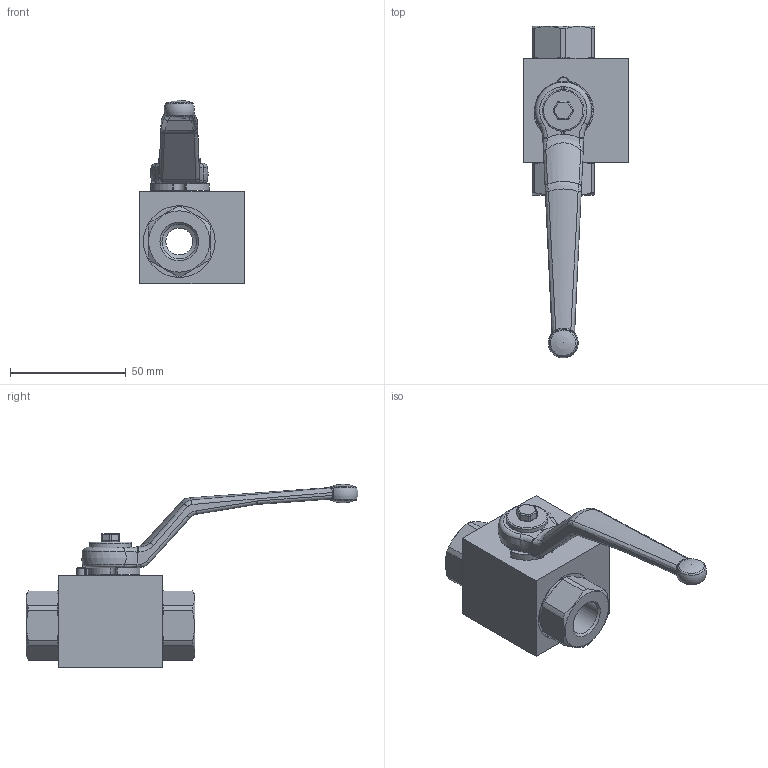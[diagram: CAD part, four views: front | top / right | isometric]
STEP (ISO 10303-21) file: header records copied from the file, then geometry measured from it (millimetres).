
FILE_DESCRIPTION( ( 'Unknown' ), '1' );
FILE_NAME( 'H:/PISTER/3D-MODELLE/BK3-Edelstahl stp/BK3-Edelst DN10 G3_8.stp', 'Unknown', ( 'Unknown' ), ( 'Unknown' ), 'PSStep 14.0', 'Unknown', ' ' );
FILE_SCHEMA( ( 'AUTOMOTIVE_DESIGN { 1 0 10303 214 1 1 1 1 }' ) );
Length unit declared in the file: millimetre
Products named in the file (10): Assem1; 09-09-003; 58-28740-16-oa2; 58-0440-009; 58-0933-235; 03-010-003-oa4; 04-010-048-oa5; 56-032-101-oa10; Griff_SW9; 01-010-117-oa11
Assembly tree (9 placements, depth 2):
  Assem1
    09-09-003
    58-28740-16-oa2
    58-0440-009
    58-0933-235
    03-010-003-oa4
    04-010-048-oa5
    56-032-101-oa10
    Griff_SW9
    01-010-117-oa11
Bounding box: 45 x 143.5 x 79.3 mm (x, y, z)
Volume: 79006.3 mm3; surface area: 29465 mm2
Topology: 9 solids, 9 shells, 307 faces, 775 edges, 486 vertices
Faces by surface type: plane 105, cylinder 100, bspline 36, cone 32, torus 30, sphere 4
Full cylindrical faces by diameter (mm): 4.2 x1, 4.98 x1, 5 x1, 5.8 x1, 14 x2, 14.95 x3, 18 x1, 24 x1, 25 x2, 27 x2, 31 x2
Entity records: 13226 total; most frequent: CARTESIAN_POINT 3842, ORIENTED_EDGE 1428, DIRECTION 1421, EDGE_CURVE 714, AXIS2_PLACEMENT_3D 570, VERTEX_POINT 464, EDGE_LOOP 363, FACE_OUTER_BOUND 330
